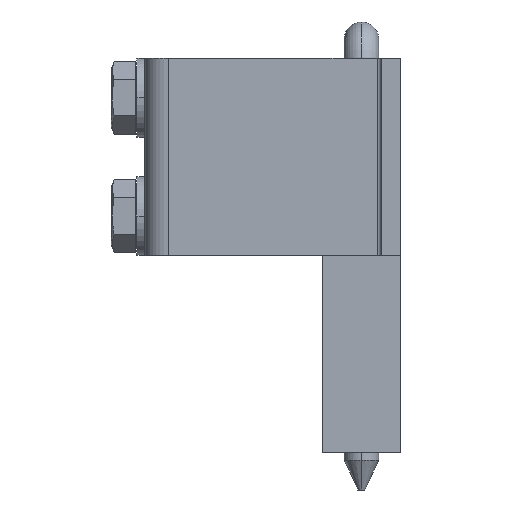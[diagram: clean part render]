
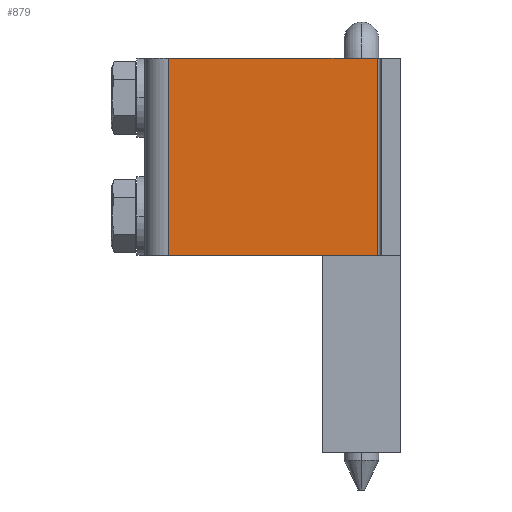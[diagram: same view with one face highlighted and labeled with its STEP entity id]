
A CAD part, left-side view. The second image highlights one B-rep face of the part: STEP entity #879.
In plain terms, the highlighted planar face has unit normal (-1, 0, 0).
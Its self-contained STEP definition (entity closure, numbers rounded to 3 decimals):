
#816 = VERTEX_POINT ( 'NONE', #2764 ) ;
#842 = EDGE_CURVE ( 'NONE', #816, #856, #2847, .T. ) ;
#847 = EDGE_CURVE ( 'NONE', #861, #848, #2842, .T. ) ;
#848 = VERTEX_POINT ( 'NONE', #2838 ) ;
#856 = VERTEX_POINT ( 'NONE', #2822 ) ;
#861 = VERTEX_POINT ( 'NONE', #2878 ) ;
#877 = EDGE_CURVE ( 'NONE', #856, #848, #2913, .T. ) ;
#879 = ADVANCED_FACE ( 'NONE', ( #2909 ), #2908, .T. ) ;
#880 = EDGE_LOOP ( 'NONE', ( #881, #882, #883, #885 ) ) ;
#881 = ORIENTED_EDGE ( 'NONE', *, *, #877, .T. ) ;
#882 = ORIENTED_EDGE ( 'NONE', *, *, #847, .F. ) ;
#883 = ORIENTED_EDGE ( 'NONE', *, *, #884, .F. ) ;
#884 = EDGE_CURVE ( 'NONE', #816, #861, #2903, .T. ) ;
#885 = ORIENTED_EDGE ( 'NONE', *, *, #842, .T. ) ;
#2764 = CARTESIAN_POINT ( 'NONE',  ( 32., 4.8, 20. ) ) ;
#2822 = CARTESIAN_POINT ( 'NONE',  ( 32., 47.2, 20. ) ) ;
#2838 = CARTESIAN_POINT ( 'NONE',  ( 32., 47.2, -20. ) ) ;
#2839 = DIRECTION ( 'NONE',  ( 0., 1., 0. ) ) ;
#2840 = VECTOR ( 'NONE', #2839, 1000. ) ;
#2841 = CARTESIAN_POINT ( 'NONE',  ( 32., 0., -20. ) ) ;
#2842 = LINE ( 'NONE', #2841, #2840 ) ;
#2844 = DIRECTION ( 'NONE',  ( 0., 1., 0. ) ) ;
#2845 = VECTOR ( 'NONE', #2844, 1000. ) ;
#2846 = CARTESIAN_POINT ( 'NONE',  ( 32., 0., 20. ) ) ;
#2847 = LINE ( 'NONE', #2846, #2845 ) ;
#2878 = CARTESIAN_POINT ( 'NONE',  ( 32., 4.8, -20. ) ) ;
#2900 = DIRECTION ( 'NONE',  ( 0., 0., -1. ) ) ;
#2901 = VECTOR ( 'NONE', #2900, 1000. ) ;
#2902 = CARTESIAN_POINT ( 'NONE',  ( 32., 4.8, 20. ) ) ;
#2903 = LINE ( 'NONE', #2902, #2901 ) ;
#2904 = DIRECTION ( 'NONE',  ( 0., 0., 1. ) ) ;
#2905 = DIRECTION ( 'NONE',  ( -1., 0., 0. ) ) ;
#2906 = CARTESIAN_POINT ( 'NONE',  ( 32., 0., 20. ) ) ;
#2907 = AXIS2_PLACEMENT_3D ( 'NONE', #2906, #2905, #2904 ) ;
#2908 = PLANE ( 'NONE',  #2907 ) ;
#2909 = FACE_OUTER_BOUND ( 'NONE', #880, .T. ) ;
#2910 = DIRECTION ( 'NONE',  ( 0., 0., -1. ) ) ;
#2911 = VECTOR ( 'NONE', #2910, 1000. ) ;
#2912 = CARTESIAN_POINT ( 'NONE',  ( 32., 47.2, 20. ) ) ;
#2913 = LINE ( 'NONE', #2912, #2911 ) ;
